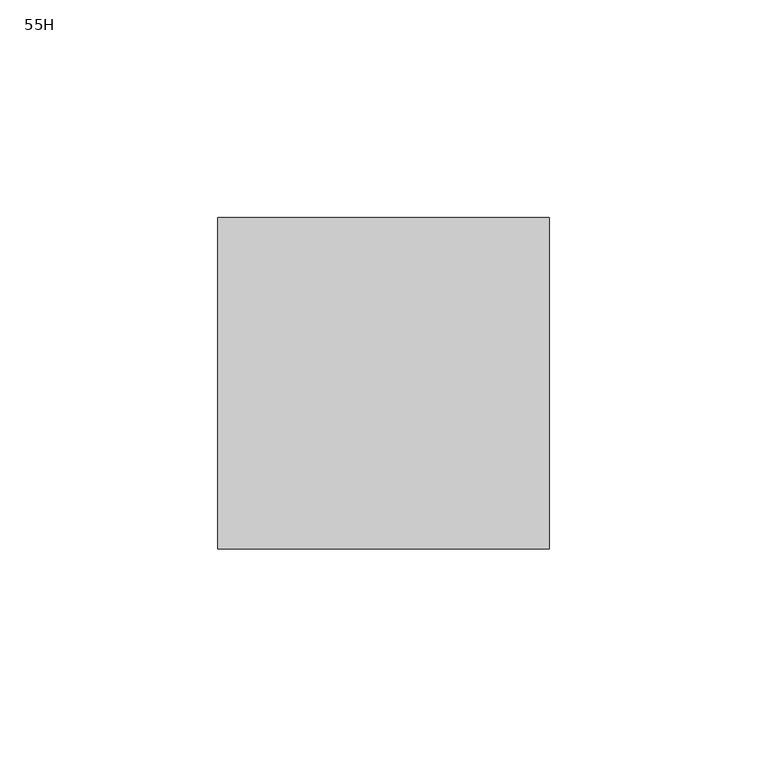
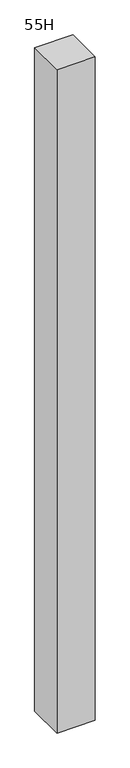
"""IFC4 building model written with IfcOpenShell, lengths in millimetres: furniture geometry, Steelcase - Montage - Junction - I - Same-Height : 55H."""

from ifc_helpers import new_model, si_unit, frame, origin, place, context, project, spatial, polyline, outline, extrude, source, transform, mapped, element, save


def furniture_55h_e53aab7c(model_context):
    return source(origin(), model_context, "Body", "SweptSolid", [
        extrude(outline(polyline([(533.4, 38.1000015), (533.4, -38.1000015), (457.2, -38.1000015), (457.2, 38.1000015), (533.4, 38.1000015)])), frame((0.0, 0.0, 3.9624), z_axis=(0.0, 0.0, 1.0), x_axis=(1.0, 0.0, 0.0)), (0.0, 0.0, 1.0), 1394.6251),
    ])


if __name__ == "__main__":
    model = new_model("IFC4")
    model_context = context("Model", 3, world=origin())
    ifc_project = project(units=[si_unit("LENGTHUNIT", "METRE", prefix="MILLI")], contexts=[model_context])
    site = spatial("IfcSite", under=ifc_project)
    building = spatial("IfcBuilding", under=site)
    placement = place(None, origin())
    furniture_55h_shape = furniture_55h_e53aab7c(model_context)
    element("IfcFurniture", 1, ObjectType="Steelcase - Montage - Junction - I - Same-Height : 55H", at=placement, inside=building, context=model_context, shape_type="MappedRepresentation", body=[
        mapped(furniture_55h_shape, transform((0.0, 0.0, 0.0), x_axis=(1.0, 0.0, 0.0), y_axis=(0.0, 1.0, 0.0), z_axis=(0.0, 0.0, 1.0))),
    ])
    save(model, "model.ifc")
